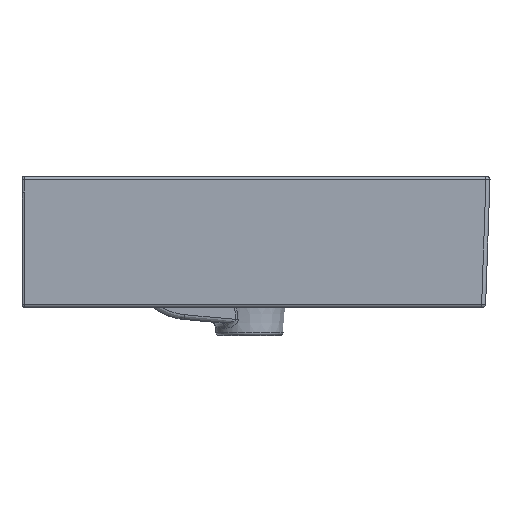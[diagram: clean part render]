
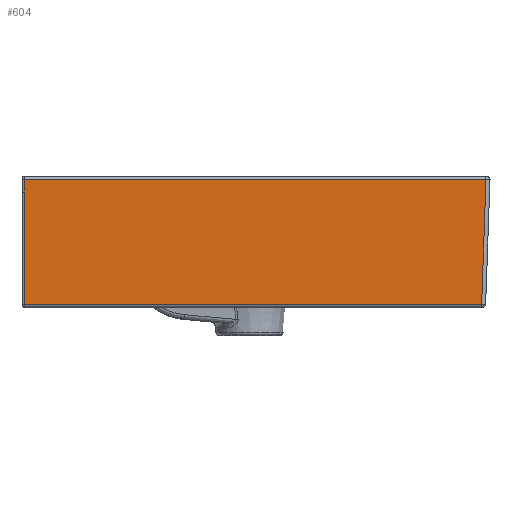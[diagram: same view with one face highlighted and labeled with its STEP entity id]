
A CAD part, left-side view. The second image highlights one B-rep face of the part: STEP entity #604.
In plain terms, the highlighted planar face has unit normal (-1, 0, -0.018).
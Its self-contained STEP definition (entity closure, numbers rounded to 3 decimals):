
#604=ADVANCED_FACE('',(#1105),#1046,.T.);
#1046=PLANE('',#7154);
#1105=FACE_OUTER_BOUND('',#1557,.T.);
#1557=EDGE_LOOP('',(#3298,#3299,#3300,#3301,#3302));
#2608=LINE('',#8830,#2769);
#2685=LINE('',#14072,#2846);
#2686=LINE('',#14074,#2847);
#2687=LINE('',#14076,#2848);
#2688=LINE('',#14078,#2849);
#2769=VECTOR('',#7615,1.);
#2846=VECTOR('',#7848,1.);
#2847=VECTOR('',#7849,1.);
#2848=VECTOR('',#7850,1.);
#2849=VECTOR('',#7851,1.);
#3298=ORIENTED_EDGE('',*,*,#5726,.T.);
#3299=ORIENTED_EDGE('',*,*,#6050,.T.);
#3300=ORIENTED_EDGE('',*,*,#6051,.T.);
#3301=ORIENTED_EDGE('',*,*,#6052,.T.);
#3302=ORIENTED_EDGE('',*,*,#6053,.T.);
#5078=VERTEX_POINT('',#8828);
#5080=VERTEX_POINT('',#8831);
#5384=VERTEX_POINT('',#14073);
#5385=VERTEX_POINT('',#14075);
#5386=VERTEX_POINT('',#14077);
#5726=EDGE_CURVE('',#5080,#5078,#2608,.T.);
#6050=EDGE_CURVE('',#5078,#5384,#2685,.T.);
#6051=EDGE_CURVE('',#5384,#5385,#2686,.T.);
#6052=EDGE_CURVE('',#5385,#5386,#2687,.T.);
#6053=EDGE_CURVE('',#5386,#5080,#2688,.T.);
#7154=AXIS2_PLACEMENT_3D('',#14079,#7852,#7853);
#7615=DIRECTION('',(0.017,0.,-1.));
#7848=DIRECTION('',(0.017,0.,-1.));
#7849=DIRECTION('',(0.,-1.,0.));
#7850=DIRECTION('',(-0.017,-0.035,0.999));
#7851=DIRECTION('',(0.,1.,0.));
#7852=DIRECTION('',(-1.,0.,-0.017));
#7853=DIRECTION('',(-0.017,0.,1.));
#8828=CARTESIAN_POINT('',(-299.703,-2.,-15.451));
#8830=CARTESIAN_POINT('',(-299.919,-2.,-3.079));
#8831=CARTESIAN_POINT('',(-299.92,-2.,-3.052));
#14072=CARTESIAN_POINT('',(-299.919,-2.,-3.079));
#14073=CARTESIAN_POINT('',(-297.755,-2.,-127.052));
#14074=CARTESIAN_POINT('',(-297.755,-27.3,-127.052));
#14075=CARTESIAN_POINT('',(-297.755,-456.563,-127.052));
#14076=CARTESIAN_POINT('',(-299.78,-460.613,-11.079));
#14077=CARTESIAN_POINT('',(-299.92,-460.893,-3.052));
#14078=CARTESIAN_POINT('',(-299.92,-231.447,-3.052));
#14079=CARTESIAN_POINT('',(-299.919,-231.447,-3.079));
